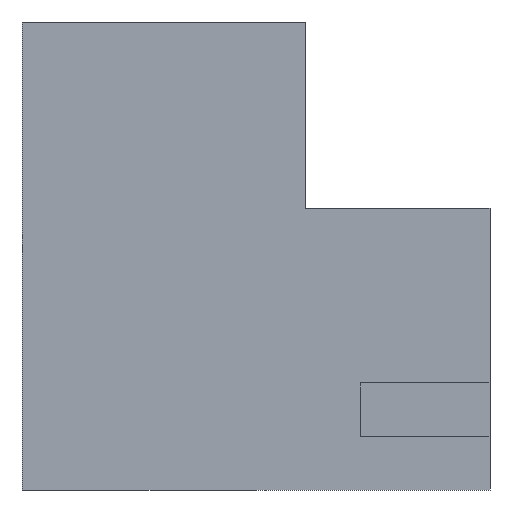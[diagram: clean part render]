
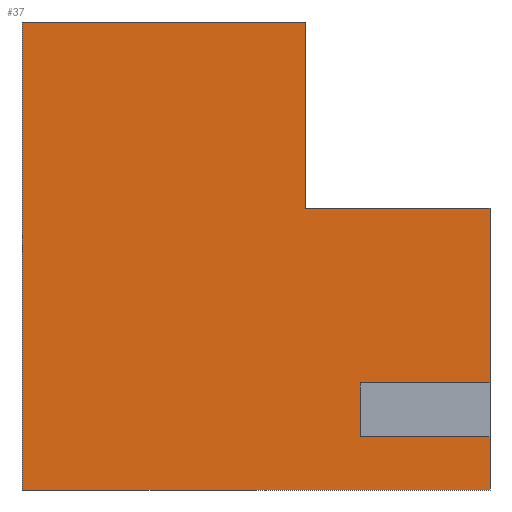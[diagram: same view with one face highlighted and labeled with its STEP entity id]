
A CAD part, left-side view. The second image highlights one B-rep face of the part: STEP entity #37.
In plain terms, the highlighted planar face has unit normal (-1, 0, 0).
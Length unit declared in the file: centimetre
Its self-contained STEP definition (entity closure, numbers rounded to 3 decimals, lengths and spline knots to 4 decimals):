
#1 = ORIENTED_EDGE ( 'NONE', *, *, #41, .F. ) ;
#3 = ORIENTED_EDGE ( 'NONE', *, *, #188, .F. ) ;
#7 = ORIENTED_EDGE ( 'NONE', *, *, #28, .F. ) ;
#10 = EDGE_CURVE ( 'NONE', #327, #47, #201, .T. ) ;
#11 = ORIENTED_EDGE ( 'NONE', *, *, #10, .T. ) ;
#12 = CARTESIAN_POINT ( 'NONE',  ( 0., 394.2428, 1000. ) ) ;
#15 = CARTESIAN_POINT ( 'NONE',  ( 0., 0., 1000. ) ) ;
#21 = EDGE_CURVE ( 'NONE', #47, #95, #429, .T. ) ;
#28 = EDGE_CURVE ( 'NONE', #367, #399, #394, .T. ) ;
#31 = CARTESIAN_POINT ( 'NONE',  ( 0., 277.1362, 113.7018 ) ) ;
#32 = CARTESIAN_POINT ( 'NONE',  ( 0., 1000., 1000. ) ) ;
#35 = CARTESIAN_POINT ( 'NONE',  ( 0., 1000., 0. ) ) ;
#36 = AXIS2_PLACEMENT_3D ( 'NONE', #67, #326, #266 ) ;
#37 = ADVANCED_FACE ( 'NONE', ( #66 ), #430, .F. ) ;
#41 = EDGE_CURVE ( 'NONE', #298, #411, #168, .T. ) ;
#47 = VERTEX_POINT ( 'NONE', #35 ) ;
#62 = DIRECTION ( 'NONE',  ( 0., 0., -1. ) ) ;
#66 = FACE_OUTER_BOUND ( 'NONE', #358, .T. ) ;
#67 = CARTESIAN_POINT ( 'NONE',  ( 0., 1000., 1000. ) ) ;
#84 = CARTESIAN_POINT ( 'NONE',  ( 0., 0., 228.7378 ) ) ;
#87 = CARTESIAN_POINT ( 'NONE',  ( 0., 0., 228.7378 ) ) ;
#89 = CARTESIAN_POINT ( 'NONE',  ( 0., 0., 113.7018 ) ) ;
#95 = VERTEX_POINT ( 'NONE', #264 ) ;
#124 = LINE ( 'NONE', #351, #134 ) ;
#131 = CARTESIAN_POINT ( 'NONE',  ( 0., 1000., 0. ) ) ;
#133 = DIRECTION ( 'NONE',  ( 0., -1., 0. ) ) ;
#134 = VECTOR ( 'NONE', #62, 100. ) ;
#135 = CARTESIAN_POINT ( 'NONE',  ( 0., 394.2428, 602.5126 ) ) ;
#136 = ORIENTED_EDGE ( 'NONE', *, *, #299, .F. ) ;
#146 = LINE ( 'NONE', #223, #234 ) ;
#154 = DIRECTION ( 'NONE',  ( 0., 1., 0. ) ) ;
#162 = DIRECTION ( 'NONE',  ( 0., 0., -1. ) ) ;
#168 = LINE ( 'NONE', #135, #221 ) ;
#173 = ORIENTED_EDGE ( 'NONE', *, *, #21, .T. ) ;
#177 = ORIENTED_EDGE ( 'NONE', *, *, #205, .F. ) ;
#182 = ORIENTED_EDGE ( 'NONE', *, *, #276, .F. ) ;
#183 = VECTOR ( 'NONE', #154, 100. ) ;
#184 = CARTESIAN_POINT ( 'NONE',  ( 0., 394.2428, 602.5126 ) ) ;
#188 = EDGE_CURVE ( 'NONE', #399, #373, #247, .T. ) ;
#189 = LINE ( 'NONE', #15, #393 ) ;
#201 = LINE ( 'NONE', #32, #251 ) ;
#205 = EDGE_CURVE ( 'NONE', #372, #262, #189, .T. ) ;
#217 = LINE ( 'NONE', #300, #339 ) ;
#221 = VECTOR ( 'NONE', #396, 100. ) ;
#223 = CARTESIAN_POINT ( 'NONE',  ( 0., 0., 602.5126 ) ) ;
#230 = VECTOR ( 'NONE', #313, 100. ) ;
#234 = VECTOR ( 'NONE', #342, 100. ) ;
#237 = EDGE_CURVE ( 'NONE', #262, #367, #250, .T. ) ;
#241 = CARTESIAN_POINT ( 'NONE',  ( 0., 277.1362, 113.7018 ) ) ;
#247 = LINE ( 'NONE', #89, #230 ) ;
#250 = LINE ( 'NONE', #84, #183 ) ;
#251 = VECTOR ( 'NONE', #321, 100. ) ;
#257 = CARTESIAN_POINT ( 'NONE',  ( 0., 0., 113.7018 ) ) ;
#262 = VERTEX_POINT ( 'NONE', #87 ) ;
#264 = CARTESIAN_POINT ( 'NONE',  ( 0., 0., 0. ) ) ;
#266 = DIRECTION ( 'NONE',  ( 0., 0., -1. ) ) ;
#276 = EDGE_CURVE ( 'NONE', #373, #95, #124, .T. ) ;
#278 = DIRECTION ( 'NONE',  ( 0., -1., 0. ) ) ;
#280 = CARTESIAN_POINT ( 'NONE',  ( 0., 1000., 1000. ) ) ;
#283 = CARTESIAN_POINT ( 'NONE',  ( 0., 0., 602.5126 ) ) ;
#286 = DIRECTION ( 'NONE',  ( 0., 0., -1. ) ) ;
#298 = VERTEX_POINT ( 'NONE', #12 ) ;
#299 = EDGE_CURVE ( 'NONE', #411, #372, #146, .T. ) ;
#300 = CARTESIAN_POINT ( 'NONE',  ( 0., 1000., 1000. ) ) ;
#313 = DIRECTION ( 'NONE',  ( 0., -1., 0. ) ) ;
#321 = DIRECTION ( 'NONE',  ( 0., 0., -1. ) ) ;
#326 = DIRECTION ( 'NONE',  ( 1., 0., 0. ) ) ;
#327 = VERTEX_POINT ( 'NONE', #280 ) ;
#332 = VECTOR ( 'NONE', #133, 100. ) ;
#336 = ORIENTED_EDGE ( 'NONE', *, *, #237, .F. ) ;
#339 = VECTOR ( 'NONE', #278, 100. ) ;
#342 = DIRECTION ( 'NONE',  ( 0., -1., 0. ) ) ;
#351 = CARTESIAN_POINT ( 'NONE',  ( 0., 0., 1000. ) ) ;
#353 = CARTESIAN_POINT ( 'NONE',  ( 0., 277.1362, 228.7378 ) ) ;
#356 = VECTOR ( 'NONE', #162, 100. ) ;
#358 = EDGE_LOOP ( 'NONE', ( #182, #3, #7, #336, #177, #136, #1, #403, #11, #173 ) ) ;
#367 = VERTEX_POINT ( 'NONE', #353 ) ;
#372 = VERTEX_POINT ( 'NONE', #283 ) ;
#373 = VERTEX_POINT ( 'NONE', #257 ) ;
#393 = VECTOR ( 'NONE', #286, 100. ) ;
#394 = LINE ( 'NONE', #31, #356 ) ;
#396 = DIRECTION ( 'NONE',  ( 0., 0., -1. ) ) ;
#399 = VERTEX_POINT ( 'NONE', #241 ) ;
#403 = ORIENTED_EDGE ( 'NONE', *, *, #428, .F. ) ;
#411 = VERTEX_POINT ( 'NONE', #184 ) ;
#428 = EDGE_CURVE ( 'NONE', #327, #298, #217, .T. ) ;
#429 = LINE ( 'NONE', #131, #332 ) ;
#430 = PLANE ( 'NONE',  #36 ) ;
